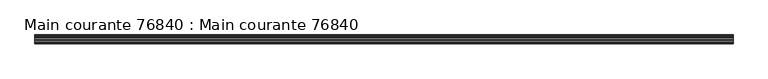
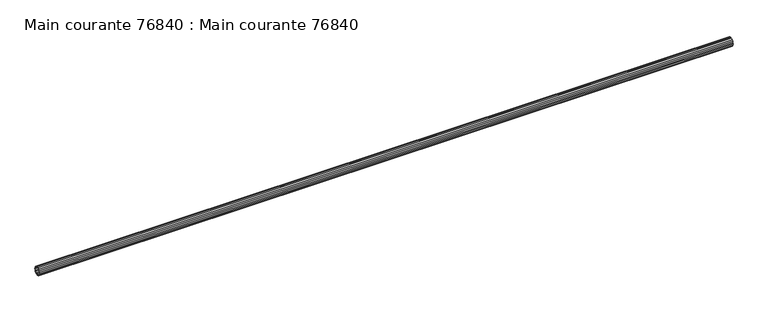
"""IFC4 building model written with IfcOpenShell, lengths in millimetres: beam geometry, Main courante 76840 : Main courante 76840."""

from ifc_helpers import new_model, si_unit, frame, origin, place, context, project, spatial, polyline, outline, extrude, source, transform, mapped, element, save


def main_courante_76840_main_courante_76840_90c7b925(model_context):
    return source(origin(), model_context, "Body", "SweptSolid", [
        extrude(outline(polyline([(-35749.8127604, 9262.9680149), (-35742.35, 9264.15), (-35734.8872396, 9262.9680149), (-35728.1549862, 9259.5377604), (-35722.8122396, 9254.1950138), (-35719.3819851, 9247.4627604), (-35718.2, 9240.0), (-35719.3819851, 9232.5372396), (-35722.8122396, 9225.8049862), (-35728.1549862, 9220.4622396), (-35734.8872396, 9217.0319851), (-35742.35, 9215.85), (-35749.8127604, 9217.0319851), (-35756.5450138, 9220.4622396), (-35761.8877604, 9225.8049862), (-35765.3180149, 9232.5372396), (-35766.5, 9240.0), (-35765.3180149, 9247.4627604), (-35761.8877604, 9254.1950138), (-35756.5450138, 9259.5377604), (-35749.8127604, 9262.9680149)]), holes=[polyline([(-35720.7, 9240.0), (-35721.7596264, 9246.6902179), (-35724.8347821, 9252.7255507), (-35729.6244493, 9257.5152179), (-35735.6597821, 9260.5903736), (-35742.35, 9261.65), (-35749.0402179, 9260.5903736), (-35755.0755507, 9257.5152179), (-35759.8652179, 9252.7255507), (-35762.9403736, 9246.6902179), (-35764.0, 9240.0), (-35762.9403736, 9233.3097821), (-35759.8652179, 9227.2744493), (-35755.0755507, 9222.4847821), (-35749.0402179, 9219.4096264), (-35742.35, 9218.35), (-35735.6597821, 9219.4096264), (-35729.6244493, 9222.4847821), (-35724.8347821, 9227.2744493), (-35721.7596264, 9233.3097821), (-35720.7, 9240.0)])]), frame((11527.2815707, 0.0, 0.0), z_axis=(1.0, 0.0, 0.0), x_axis=(0.0, 1.0, 0.0)), (0.0, 0.0, 1.0), 3862.7184292),
    ])


if __name__ == "__main__":
    model = new_model("IFC4")
    model_context = context("Model", 3, world=origin())
    ifc_project = project(units=[si_unit("LENGTHUNIT", "METRE", prefix="MILLI")], contexts=[model_context])
    site = spatial("IfcSite", under=ifc_project)
    building = spatial("IfcBuilding", under=site)
    placement = place(None, origin())
    main_courante_76840_main_courante_76840_shape = main_courante_76840_main_courante_76840_90c7b925(model_context)
    element("IfcBeam", 1, ObjectType="Main courante 76840 : Main courante 76840", at=placement, inside=building, context=model_context, shape_type="MappedRepresentation", body=[
        mapped(main_courante_76840_main_courante_76840_shape, transform((0.0, 0.0, 0.0), x_axis=(1.0, 0.0, 0.0), y_axis=(0.0, 1.0, 0.0), z_axis=(0.0, 0.0, 1.0))),
    ])
    save(model, "model.ifc")
